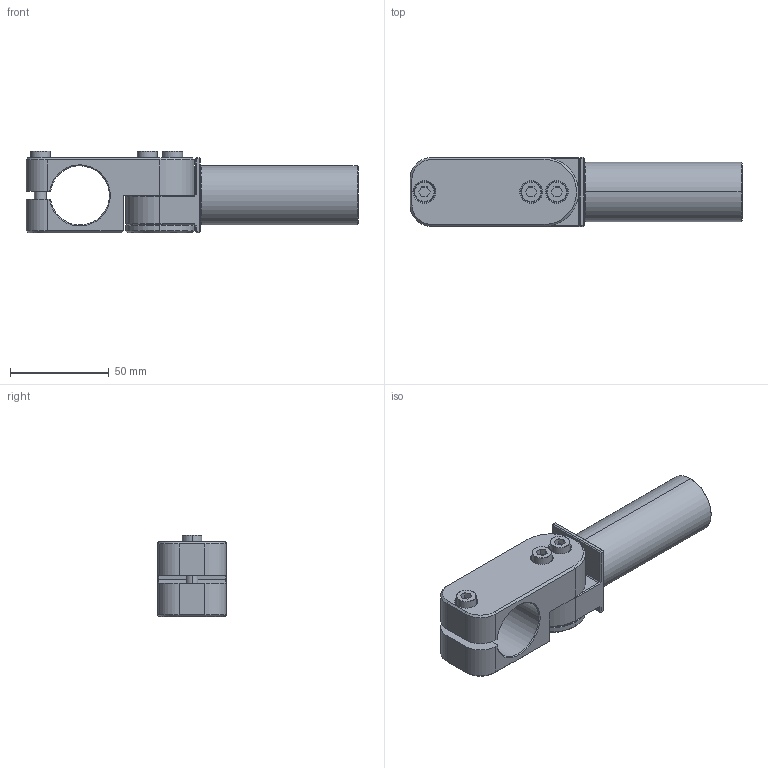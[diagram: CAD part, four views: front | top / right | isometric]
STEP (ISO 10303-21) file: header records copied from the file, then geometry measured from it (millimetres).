
FILE_DESCRIPTION (( 'STEP AP214' ), '1' );
FILE_NAME ('SEAH-3030L80T.STEP', '2023-01-30T06:14:53', ( 'Windows User' ), ( 'P R C' ), 'SwSTEP 2.0', 'SolidWorks 2019', '' );
FILE_SCHEMA (( 'AUTOMOTIVE_DESIGN' ));
Length unit declared in the file: millimetre
Products named in the file (6): SEAH-3030L80.3; PTS-M6; SEAH-3030L80T; SEAH-3030L80.2; SEAH-3030L80.1; PTC-M6L20
Assembly tree (9 placements, depth 2):
  SEAH-3030L80T
    SEAH-3030L80.1
    SEAH-3030L80.2
    SEAH-3030L80.3
    PTC-M6L20  x3
    PTS-M6  x3
Bounding box: 168.5 x 35 x 41.45 mm (x, y, z)
Volume: 113666 mm3; surface area: 40602.5 mm2
Topology: 9 solids, 9 shells, 708 faces, 1947 edges, 1263 vertices
Faces by surface type: plane 576, cone 69, cylinder 61, bspline 2
Entity records: 10951 total; most frequent: CARTESIAN_POINT 2126, DIRECTION 1883, ORIENTED_EDGE 1758, EDGE_CURVE 879, AXIS2_PLACEMENT_3D 662, VECTOR 559, LINE 559, VERTEX_POINT 555
